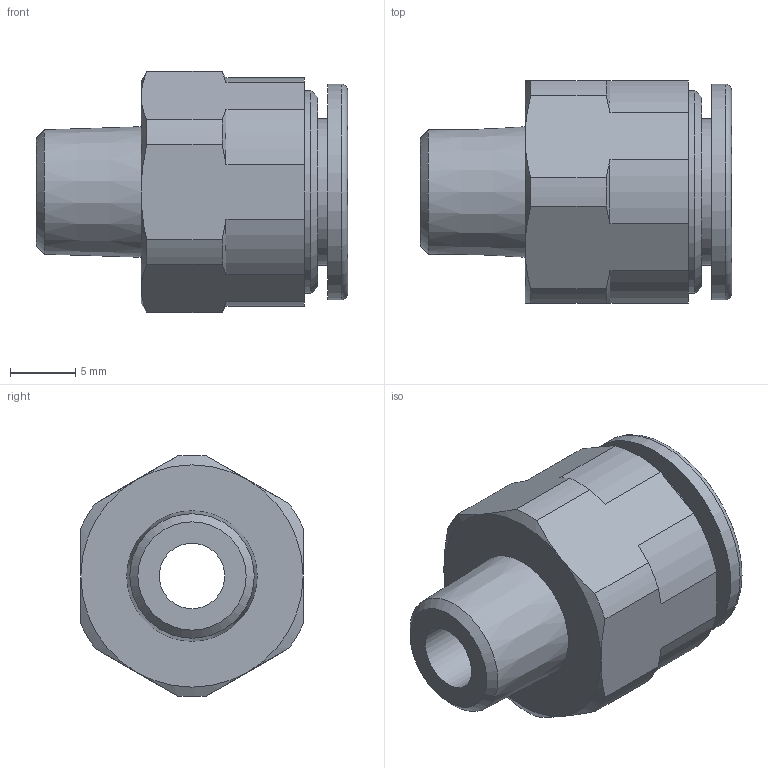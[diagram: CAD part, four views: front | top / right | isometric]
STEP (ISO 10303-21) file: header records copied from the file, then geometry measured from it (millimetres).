
FILE_DESCRIPTION(/* description */ (''),/* implementation_level */ '2;1');
FILE_NAME(/* name */ 'E:\2013年度版　3D-DATA\【02】 TOUCH CONNECTOR FIVE SUS\[01] MALE CONNECTOR\[11] FS10-01M FS10-01MW.stp',/* time_stamp */ '2013-08-06T16:45:31+09:00',/* author */ ('takahashi-pc2'),/* organization */ (''),/* preprocessor_version */ 'ST-DEVELOPER v15.2',/* originating_system */ 'Autodesk Inventor 2014',/* authorisation */ '');
FILE_SCHEMA (('AUTOMOTIVE_DESIGN { 1 0 10303 214 3 1 1 }'));
Length unit declared in the file: millimetre
Products named in the file (1): [11] FS10-01M FS10-01MW
Bounding box: 23.8 x 17 x 18.49 mm (x, y, z)
Volume: 2859 mm3; surface area: 2327.7 mm2
Topology: 1 solids, 1 shells, 46 faces, 108 edges, 69 vertices
Faces by surface type: cylinder 17, cone 15, plane 13, torus 1
Full cylindrical faces by diameter (mm): 5 x1, 10 x1, 11.2 x1, 15.5 x1, 16.5 x1
Entity records: 1281 total; most frequent: CARTESIAN_POINT 263, DIRECTION 214, ORIENTED_EDGE 198, EDGE_CURVE 99, AXIS2_PLACEMENT_3D 92, VERTEX_POINT 69, EDGE_LOOP 62, ADVANCED_FACE 46
